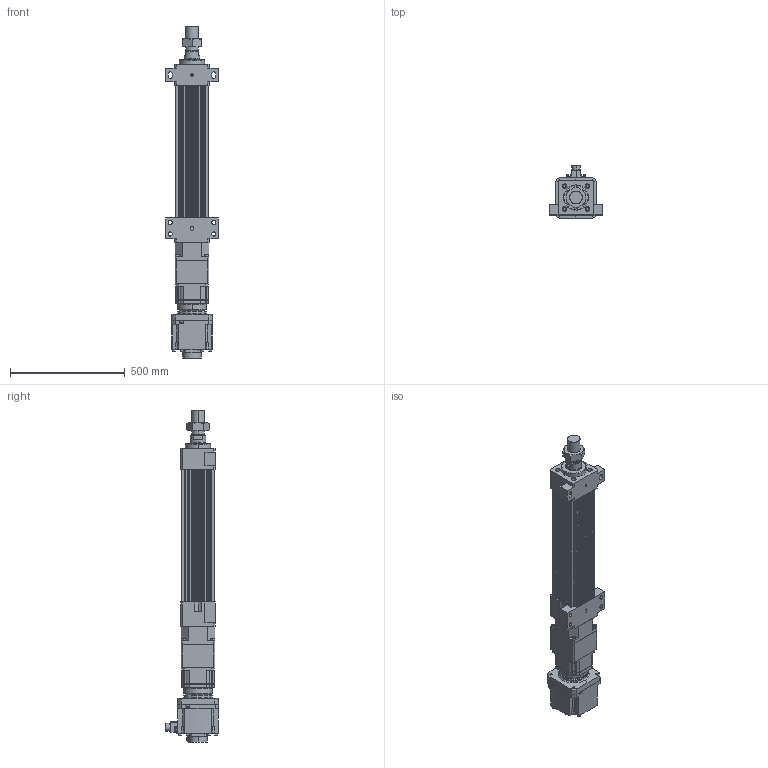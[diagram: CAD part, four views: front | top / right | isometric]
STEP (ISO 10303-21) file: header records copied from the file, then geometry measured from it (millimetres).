
FILE_DESCRIPTION (( 'STEP AP203' ), '1' );
FILE_NAME ('HES150NS(HS)-S300-W035G00-M-FFB.STEP', '2023-01-31T12:34:21', ( 'tms' ), ( '' ), 'SwSTEP 2.0', 'SolidWorks 2013', '' );
FILE_SCHEMA (( 'CONFIG_CONTROL_DESIGN' ));
Length unit declared in the file: millimetre
Products named in the file (9): M56X2.0P; P0403500801; HES150NS(HS)-S300-W035G00-M-FFB; HES150 ROD M ST300; HG-SR352; HES150-S300-G142-FFB; P1301500001; AB1421; AB142-003[HG-SR352]
Assembly tree (8 placements, depth 3):
  HES150NS(HS)-S300-W035G00-M-FFB
    HES150-S300-G142-FFB
    HES150 ROD M ST300
    M56X2.0P
    AB142-003[HG-SR352]
      AB1421
      P1301500001
      P0403500801
    HG-SR352
Bounding box: 230 x 228.85 x 1447.5 mm (x, y, z)
Volume: 16571474.9 mm3; surface area: 1777042.7 mm2
Topology: 5 solids, 23 shells, 1522 faces, 3951 edges, 2569 vertices
Faces by surface type: cylinder 691, plane 599, cone 150, bspline 76, torus 6
Entity records: 55583 total; most frequent: CARTESIAN_POINT 16843, DIRECTION 8091, ORIENTED_EDGE 7808, EDGE_CURVE 3926, AXIS2_PLACEMENT_3D 3042, VERTEX_POINT 2569, LINE 2007, VECTOR 2007
